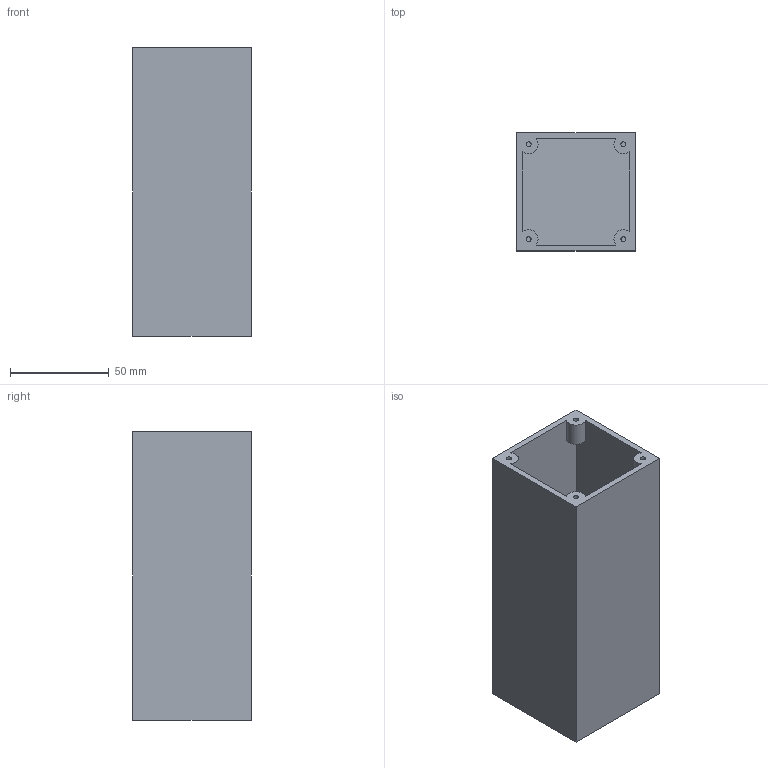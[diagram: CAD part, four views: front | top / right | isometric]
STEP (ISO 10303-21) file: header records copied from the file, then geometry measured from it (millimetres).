
FILE_DESCRIPTION(('Open CASCADE Model'),'2;1');
FILE_NAME('Open CASCADE Shape Model','2026-10-21T16:53:56',('Author'),( 'Open CASCADE'),'Open CASCADE STEP processor 7.9','Open CASCADE 7.9' ,'Unknown');
FILE_SCHEMA(('AUTOMOTIVE_DESIGN { 1 0 10303 214 1 1 1 1 }'));
Length unit declared in the file: millimetre
Products named in the file (1): Open CASCADE STEP translator 7.9 33
Bounding box: 60 x 60 x 146 mm (x, y, z)
Volume: 110982.8 mm3; surface area: 73930 mm2
Topology: 1 solids, 1 shells, 27 faces, 60 edges, 40 vertices
Faces by surface type: plane 19, cylinder 8
Full cylindrical faces by diameter (mm): 2.5 x4
Entity records: 1555 total; most frequent: CARTESIAN_POINT 278, DIRECTION 247, LINE 148, VECTOR 148, ORIENTED_EDGE 120, PCURVE 120, DEFINITIONAL_REPRESENTATION 120, EDGE_CURVE 60
